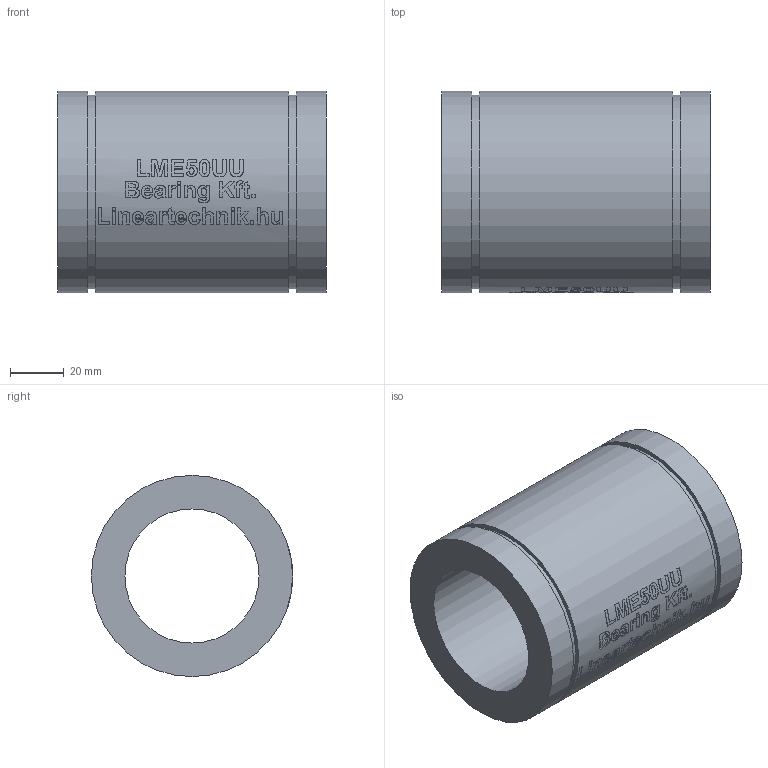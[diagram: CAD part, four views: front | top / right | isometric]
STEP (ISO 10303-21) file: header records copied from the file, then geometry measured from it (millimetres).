
FILE_DESCRIPTION(/* description */ (''),/* implementation_level */ '2;1');
FILE_NAME(/* name */ 'LME50UU',/* time_stamp */ '2019-05-17T10:33:38+02:00',/* author */ ('VĂ©gh MĂˇtĂ©'),/* organization */ ('Bearing Kft'),/* preprocessor_version */ 'ST-DEVELOPER v16.7',/* originating_system */ 'DEX',/* authorisation */ $);
FILE_SCHEMA (('AUTOMOTIVE_DESIGN {1 0 10303 214 3 1 1}'));
Length unit declared in the file: millimetre
Products named in the file (1): LME50UU
Bounding box: 100 x 75 x 75 mm (x, y, z)
Volume: 243550.6 mm3; surface area: 45595.6 mm2
Topology: 1 solids, 1 shells, 314 faces, 788 edges, 526 vertices
Faces by surface type: plane 166, bspline 96, cylinder 52
Full cylindrical faces by diameter (mm): 50 x1, 72 x2, 75 x3
Entity records: 22426 total; most frequent: CARTESIAN_POINT 15411, ORIENTED_EDGE 1554, DIRECTION 1170, EDGE_CURVE 777, VERTEX_POINT 524, LINE 432, VECTOR 432, EDGE_LOOP 375
